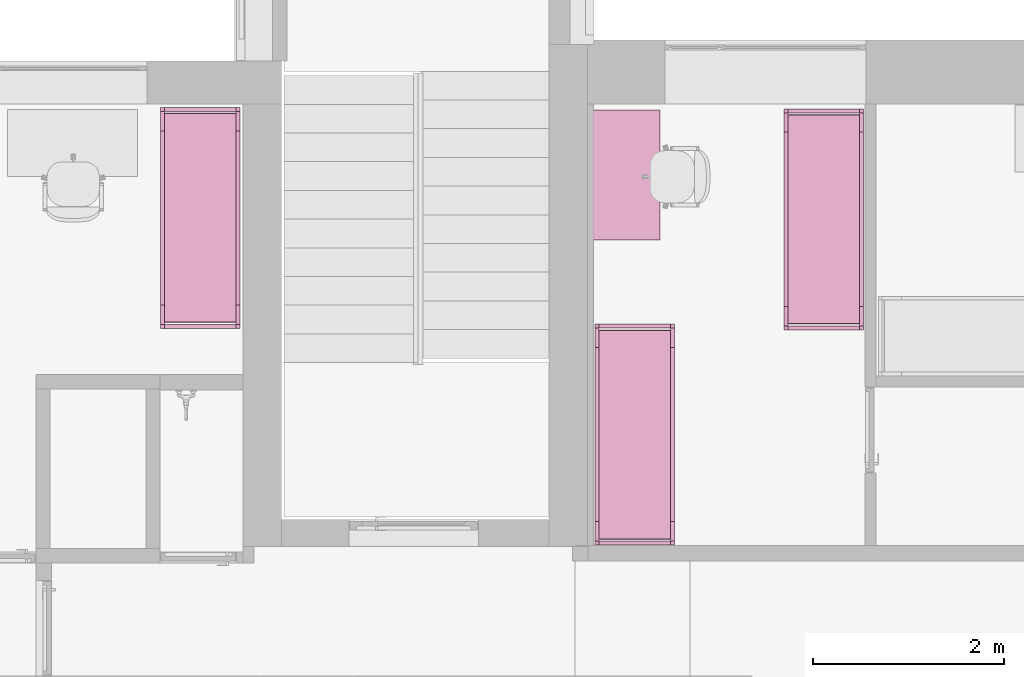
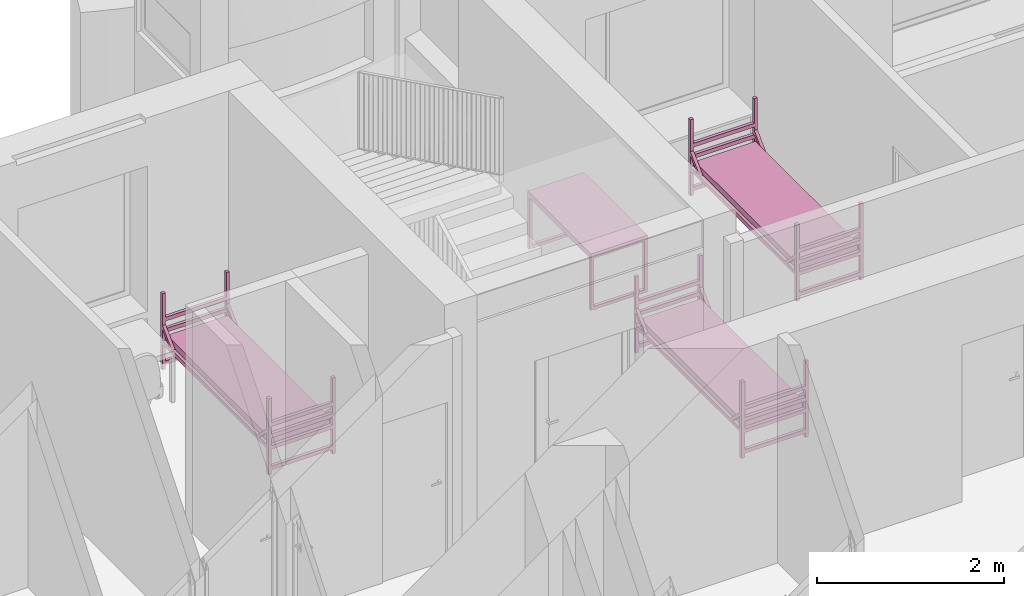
# One storey, part 33 of 46: 4 furnishings.
"""IFC2X3 building model written with IfcOpenShell, lengths in millimetres."""

from ifc_helpers import new_model, entity, si_unit, converted_unit, derived_unit, direction, frame, frame_2d, origin, place, context, subcontext, project, spatial, polyline, circle_curve, parameter, trimmed, segment, composite_curve, rectangle, outline, extrude, faceted_brep, source, transform, mapped, material, material_list, type_object, type_shapes, element, save


model = new_model("IFC2X3")

# Units and contexts
model_context = context("Model", 3, precision=0.01, world=origin(), true_north=direction((6.12303176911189e-17, 1.0)))
body_context = subcontext(model_context, "Body", "Model", "MODEL_VIEW")
ifc_project = project(units=[si_unit("LENGTHUNIT", "METRE", prefix="MILLI"), si_unit("AREAUNIT", "SQUARE_METRE"), si_unit("VOLUMEUNIT", "CUBIC_METRE"), converted_unit("PLANEANGLEUNIT", "DEGREE", entity("IfcRatioMeasure", 0.0174532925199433), si_unit("PLANEANGLEUNIT", "RADIAN"), dimensions=[0, 0, 0, 0, 0, 0, 0]), si_unit("MASSUNIT", "GRAM", prefix="KILO"), derived_unit("MASSDENSITYUNIT", [(si_unit("MASSUNIT", "GRAM", prefix="KILO"), 1), (si_unit("LENGTHUNIT", "METRE"), -3)]), si_unit("TIMEUNIT", "SECOND"), si_unit("FREQUENCYUNIT", "HERTZ"), si_unit("THERMODYNAMICTEMPERATUREUNIT", "DEGREE_CELSIUS"), derived_unit("THERMALTRANSMITTANCEUNIT", [(si_unit("MASSUNIT", "GRAM", prefix="KILO"), 1), (si_unit("THERMODYNAMICTEMPERATUREUNIT", "KELVIN"), -1), (si_unit("TIMEUNIT", "SECOND"), -3)]), derived_unit("VOLUMETRICFLOWRATEUNIT", [(si_unit("LENGTHUNIT", "METRE"), 3), (si_unit("TIMEUNIT", "SECOND"), -1)]), si_unit("ELECTRICCURRENTUNIT", "AMPERE"), si_unit("ELECTRICVOLTAGEUNIT", "VOLT"), si_unit("POWERUNIT", "WATT"), si_unit("FORCEUNIT", "NEWTON", prefix="KILO"), si_unit("ILLUMINANCEUNIT", "LUX"), si_unit("LUMINOUSFLUXUNIT", "LUMEN"), si_unit("LUMINOUSINTENSITYUNIT", "CANDELA"), derived_unit("USERDEFINED", [(si_unit("MASSUNIT", "GRAM", prefix="KILO"), -1), (si_unit("LENGTHUNIT", "METRE"), -2), (si_unit("TIMEUNIT", "SECOND"), 3), (si_unit("LUMINOUSFLUXUNIT", "LUMEN"), 1)]), derived_unit("LINEARVELOCITYUNIT", [(si_unit("LENGTHUNIT", "METRE"), 1), (si_unit("TIMEUNIT", "SECOND"), -1)]), si_unit("PRESSUREUNIT", "PASCAL"), derived_unit("USERDEFINED", [(si_unit("LENGTHUNIT", "METRE"), -2), (si_unit("MASSUNIT", "GRAM", prefix="KILO"), 1), (si_unit("TIMEUNIT", "SECOND"), -2)]), derived_unit("LINEARFORCEUNIT", [(si_unit("MASSUNIT", "GRAM", prefix="KILO"), 1), (si_unit("LENGTHUNIT", "METRE"), 1), (si_unit("TIMEUNIT", "SECOND"), -2), (si_unit("LENGTHUNIT", "METRE"), -1)]), derived_unit("PLANARFORCEUNIT", [(si_unit("MASSUNIT", "GRAM", prefix="KILO"), 1), (si_unit("LENGTHUNIT", "METRE"), 1), (si_unit("TIMEUNIT", "SECOND"), -2), (si_unit("LENGTHUNIT", "METRE"), -2)])], contexts=[model_context])

# Site, building, storey, space
site_placement = place(None, origin())
site = spatial("IfcSite", under=ifc_project, at=site_placement, Name="Default", CompositionType="ELEMENT")
building_placement = place(site_placement, origin())
building = spatial("IfcBuilding", under=site, at=building_placement, Name="SMA ARH", CompositionType="ELEMENT")
storey_placement = place(building_placement, origin())
storey = spatial("IfcBuildingStorey", under=building, at=storey_placement, Name="1 Korrus", CompositionType="ELEMENT", Elevation=0.0)
space_1_placement = place(storey_placement, origin())
space_1 = spatial("IfcSpace", under=storey, at=space_1_placement, Name="1-22", CompositionType="ELEMENT", InteriorOrExteriorSpace="INTERNAL")

# Furnishings
ifc_material_1 = material(Name="Madrats")
furniture_type_1 = type_object("IfcFurnitureType", Name="Kasarmu voodi ühekordne 2308x830:Kasarmu voodi ühekordne 2308x830", material=ifc_material_1)
shared_shape_1 = source(origin(), body_context, "Body", "SweptSolid", [
    extrude(rectangle(XDim=39.9999999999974, YDim=750.000000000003, at=frame_2d((-1.35003119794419e-13, -2.8421709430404e-14), x_axis=(1.0, 0.0))), frame((1.68638457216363, -1226.7969571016, 55.0), z_axis=(0.0, 0.0, 1.0), x_axis=(0.0, -1.0, 0.0)), (0.0, 0.0, 1.0), 49.9999999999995),
    extrude(rectangle(XDim=39.9999999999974, YDim=750.000000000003, at=frame_2d((-1.35003119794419e-13, -2.8421709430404e-14), x_axis=(1.0, 0.0))), frame((1.68638457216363, -1226.7969571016, 325.0), z_axis=(0.0, 0.0, 1.0), x_axis=(0.0, -1.0, 0.0)), (0.0, 0.0, 1.0), 49.9999999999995),
    extrude(rectangle(XDim=39.9999999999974, YDim=750.000000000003, at=frame_2d((-1.35003119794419e-13, -2.8421709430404e-14), x_axis=(1.0, 0.0))), frame((1.68638457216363, -1226.7969571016, 475.0), z_axis=(0.0, 0.0, 1.0), x_axis=(0.0, -1.0, 0.0)), (0.0, 0.0, 1.0), 49.9999999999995),
    extrude(rectangle(XDim=39.9999999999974, YDim=750.000000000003, at=frame_2d((-1.35003119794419e-13, -2.8421709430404e-14), x_axis=(1.0, 0.0))), frame((1.68638457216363, -1226.7969571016, 625.0), z_axis=(0.0, 0.0, 1.0), x_axis=(0.0, -1.0, 0.0)), (0.0, 0.0, 1.0), 50.0000000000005),
    extrude(rectangle(XDim=39.9999999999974, YDim=750.000000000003, at=frame_2d((1.35003119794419e-13, -2.8421709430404e-14), x_axis=(1.0, 0.0))), frame((1.68638457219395, 1041.2030428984, 55.0), z_axis=(0.0, 0.0, 1.0), x_axis=(0.0, -1.0, 0.0)), (0.0, 0.0, 1.0), 50.0000000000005),
    extrude(rectangle(XDim=39.9999999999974, YDim=750.000000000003, at=frame_2d((1.35003119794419e-13, -2.8421709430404e-14), x_axis=(1.0, 0.0))), frame((1.68638457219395, 1041.2030428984, 325.0), z_axis=(0.0, 0.0, 1.0), x_axis=(0.0, -1.0, 0.0)), (0.0, 0.0, 1.0), 50.0000000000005),
    extrude(rectangle(XDim=39.9999999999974, YDim=750.000000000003, at=frame_2d((1.35003119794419e-13, -2.8421709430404e-14), x_axis=(1.0, 0.0))), frame((1.68638457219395, 1041.2030428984, 475.0), z_axis=(0.0, 0.0, 1.0), x_axis=(0.0, -1.0, 0.0)), (0.0, 0.0, 1.0), 50.0000000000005),
    extrude(rectangle(XDim=39.9999999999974, YDim=750.000000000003, at=frame_2d((1.35003119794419e-13, -2.8421709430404e-14), x_axis=(1.0, 0.0))), frame((1.68638457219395, 1041.2030428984, 625.0), z_axis=(0.0, 0.0, 1.0), x_axis=(0.0, -1.0, 0.0)), (0.0, 0.0, 1.0), 49.9999999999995),
    extrude(outline(composite_curve([segment(trimmed(circle_curve(frame_2d((1085.0, -40.0), x_axis=(1.0, 0.0)), 10.0), [parameter(270.0)], [parameter(0.0)], True, "PARAMETER"), True, "CONTINUOUS"), segment(polyline([(1095.0, -40.0), (1095.0, 40.0)]), True, "CONTINUOUS"), segment(trimmed(circle_curve(frame_2d((1085.0, 40.0), x_axis=(1.0, 0.0)), 10.0), [parameter(0.0)], [parameter(90.0000000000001)], True, "PARAMETER"), True, "CONTINUOUS"), segment(polyline([(1085.0, 50.0), (-1085.0, 50.0)]), True, "CONTINUOUS"), segment(trimmed(circle_curve(frame_2d((-1085.0, 40.0), x_axis=(1.0, 0.0)), 10.0), [parameter(90.0000000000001)], [parameter(180.0)], True, "PARAMETER"), True, "CONTINUOUS"), segment(polyline([(-1095.0, 40.0), (-1095.0, -40.0)]), True, "CONTINUOUS"), segment(trimmed(circle_curve(frame_2d((-1085.0, -40.0), x_axis=(1.0, 0.0)), 10.0), [parameter(180.0)], [parameter(270.0)], True, "PARAMETER"), True, "CONTINUOUS"), segment(polyline([(-1085.0, -50.0), (1085.0, -50.0)]), True, "CONTINUOUS")], self_intersect=False)), frame((-373.313615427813, -92.7969571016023, 405.0), z_axis=(1.0, 0.0, 0.0), x_axis=(0.0, -1.0, 0.0)), (0.0, 0.0, 1.0), 750.000000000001),
    extrude(outline(polyline([(-1114.0, -100.0), (1114.0, -100.0), (1114.0, -50.0), (961.59199141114, -50.0), (1114.0, 100.0), (1114.0, 150.0), (910.789321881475, -50.0), (-910.789321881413, -50.0), (-1114.0, 150.0), (-1114.0, 100.0), (-961.591991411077, -50.0), (-1114.0, -50.0), (-1114.0, -100.0)])), frame((-413.313615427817, -92.7969571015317, 430.0), z_axis=(1.0, 0.0, 0.0), x_axis=(0.0, 1.0, 0.0)), (0.0, 0.0, 1.0), 39.9999999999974),
    extrude(outline(polyline([(-1114.0, -100.0), (1114.0, -100.0), (1114.0, -50.0), (961.591991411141, -50.0), (1114.0, 100.0), (1114.0, 150.0), (910.789321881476, -50.0), (-910.789321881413, -50.0), (-1114.0, 150.0), (-1114.0, 100.0), (-961.591991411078, -50.0), (-1114.0, -50.0), (-1114.0, -100.0)])), frame((376.686384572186, -92.796957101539, 430.0), z_axis=(1.0, 0.0, 0.0), x_axis=(0.0, 1.0, 0.0)), (0.0, 0.0, 1.0), 39.9999999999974),
    extrude(rectangle(XDim=39.9999999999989, YDim=39.9999999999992, at=frame_2d((-6.75015598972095e-14, 0.0), x_axis=(1.0, 0.0))), frame((396.686384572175, -1226.79695710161, 0.0), z_axis=(0.0, 0.0, 1.0), x_axis=(0.0, 1.0, 0.0)), (0.0, 0.0, 1.0), 995.0),
    extrude(rectangle(XDim=39.9999999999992, YDim=39.9999999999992, at=frame_2d((-1.35003119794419e-13, 0.0), x_axis=(1.0, 0.0))), frame((396.686384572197, 1041.20304289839, 0.0), z_axis=(0.0, 0.0, 1.0), x_axis=(0.0, 1.0, 0.0)), (0.0, 0.0, 1.0), 995.0),
    extrude(rectangle(XDim=40.0000000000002, YDim=39.9999999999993, at=frame_2d((-1.35003119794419e-13, 0.0), x_axis=(1.0, 0.0))), frame((-393.313615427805, 1041.2030428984, 0.0), z_axis=(0.0, 0.0, 1.0), x_axis=(0.0, 1.0, 0.0)), (0.0, 0.0, 1.0), 995.0),
    extrude(rectangle(XDim=39.9999999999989, YDim=39.9999999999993, at=frame_2d((-6.75015598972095e-14, 0.0), x_axis=(1.0, 0.0))), frame((-393.313615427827, -1226.7969571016, 0.0), z_axis=(0.0, 0.0, 1.0), x_axis=(0.0, 1.0, 0.0)), (0.0, 0.0, 1.0), 995.0),
])
type_shapes(furniture_type_1, [shared_shape_1])
for number, where, z_axis, x_axis, name in (
    (1, (14471.6863845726, 11200.0, 0.0), (0.0, 0.0, 1.0), (-1.0, 0.0, 0.0), "Kasarmu voodi ühekordne 2308x830:Kasarmu voodi ühekordne 2308x830"),
    (2, (12496.6863845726, 8950.20304289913, 0.0), (0.0, 0.0, 1.0), (-1.0, 0.0, 0.0), "Kasarmu voodi ühekordne 2308x830:Kasarmu voodi ühekordne 2308x830"),
):
    element("IfcFurnishingElement", number, at=place(space_1_placement, frame(where, z_axis=z_axis, x_axis=x_axis)), inside=space_1, type_object=furniture_type_1, material=ifc_material_1, Name=name, ObjectType="Kasarmu voodi ühekordne 2308x830:Kasarmu voodi ühekordne 2308x830", context=body_context, shape_type="MappedRepresentation", body=[
        mapped(shared_shape_1, transform((0.0, 0.0, 0.0), scale=1.0)),
    ])

# Space
space_2_placement = place(storey_placement, origin())
space_2 = spatial("IfcSpace", under=storey, at=space_2_placement, Name="1-20/2", CompositionType="ELEMENT", InteriorOrExteriorSpace="INTERNAL")

# Furnishings
furnishing_1_placement = place(space_2_placement, frame((7955.32130046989, 11215.0, 0.0), z_axis=(0.0, 0.0, 1.0), x_axis=(-1.0, 0.0, 0.0)))
element("IfcFurnishingElement", 3, at=furnishing_1_placement, inside=space_2, type_object=furniture_type_1, material=ifc_material_1, Name="Kasarmu voodi ühekordne 2308x830:Kasarmu voodi ühekordne 2308x830", ObjectType="Kasarmu voodi ühekordne 2308x830:Kasarmu voodi ühekordne 2308x830", context=body_context, shape_type="MappedRepresentation", body=[
    mapped(shared_shape_1, transform((0.0, 0.0, 0.0), scale=1.0)),
])
ifc_material_2 = material(Name="<Unnamed>")
ifc_material_list = material_list([ifc_material_2, ifc_material_2])
furniture_type_2 = type_object("IfcFurnitureType", Name="kirjutuslaud 1360x700mm:kirjutuslaud 1360x700mm", material=ifc_material_list)
shared_shape_2 = source(origin(), body_context, "Body", "Brep", [
    faceted_brep([(680.0, -350.0, 720.0), (680.0, 350.0, 720.0), (680.0, 350.0, 750.0), (680.0, -350.0, 750.0), (-680.0, -350.0, 720.0), (-680.0, -350.0, 750.0), (-680.0, 350.0, 750.0), (-680.0, 350.0, 720.0)], [[[0, 1, 2, 3]], [[4, 5, 6, 7]], [[1, 0, 4, 7]], [[2, 1, 7, 6]], [[3, 2, 6, 5]], [[0, 3, 5, 4]]]),
    faceted_brep([(-640.0, -310.0, 680.0), (-640.0, 310.0, 680.0), (-640.0, 310.0, 720.0), (-640.0, -310.0, 720.0), (-680.0, -350.0, 720.0), (-680.0, 350.0, 720.0), (-680.0, 350.0, 10.0), (-680.0, -350.0, 10.0), (-680.0, 310.0, 680.0), (-680.0, -310.0, 680.0), (-680.0, -310.0, 50.0), (-680.0, 310.0, 50.0), (-640.0, -350.0, 10.0), (-640.0, -350.0, 680.0), (640.0, -350.0, 680.0), (640.0, -350.0, 10.0), (680.0, -350.0, 10.0), (680.0, -350.0, 720.0), (-640.0, 350.0, 10.0), (680.0, 350.0, 720.0), (680.0, 350.0, 10.0), (640.0, 350.0, 10.0), (640.0, 350.0, 680.0), (-640.0, 350.0, 680.0), (640.0, 310.0, 720.0), (640.0, -310.0, 720.0), (-640.0, 310.0, 50.0), (-640.0, -310.0, 50.0), (640.0, -310.0, 680.0), (640.0, 310.0, 680.0), (680.0, 310.0, 680.0), (680.0, 310.0, 50.0), (680.0, -310.0, 50.0), (680.0, -310.0, 680.0), (640.0, -310.0, 50.0), (640.0, 310.0, 50.0)], [[[0, 1, 2, 3]], [[4, 5, 6, 7], [8, 9, 10, 11]], [[4, 7, 12, 13, 14, 15, 16, 17]], [[18, 12, 7, 6]], [[6, 5, 19, 20, 21, 22, 23, 18]], [[19, 5, 4, 17], [2, 24, 25, 3]], [[26, 1, 8, 11]], [[27, 26, 11, 10]], [[0, 27, 10, 9]], [[1, 0, 9, 8]], [[14, 13, 0, 28]], [[24, 2, 1, 29]], [[3, 25, 28, 0]], [[17, 16, 20, 19], [30, 31, 32, 33]], [[21, 15, 14, 28, 34, 35, 29, 22]], [[20, 16, 15, 21]], [[31, 30, 29, 35]], [[32, 31, 35, 34]], [[33, 32, 34, 28]], [[30, 33, 28, 29]], [[29, 28, 25, 24]], [[29, 1, 23, 22]], [[12, 18, 23, 1, 26, 27, 0, 13]]]),
    faceted_brep([(-663.729456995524, -270.466136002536, 0.0), (-659.847171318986, -269.955023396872, 0.0), (-655.964885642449, -270.466136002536, 0.0), (-652.347171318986, -271.964642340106, 0.0), (-649.240569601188, -274.348421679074, 0.0), (-646.85679026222, -277.455023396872, 0.0), (-645.35828392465, -281.072737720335, 0.0), (-644.847171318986, -284.955023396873, 0.0), (-645.35828392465, -288.83730907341, 0.0), (-646.85679026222, -292.455023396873, 0.0), (-649.240569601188, -295.561625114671, 0.0), (-652.347171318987, -297.945404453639, 0.0), (-655.964885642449, -299.443910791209, 0.0), (-659.847171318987, -299.955023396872, 0.0), (-663.729456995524, -299.443910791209, 0.0), (-667.347171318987, -297.945404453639, 0.0), (-670.453773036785, -295.561625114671, 0.0), (-672.837552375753, -292.455023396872, 0.0), (-674.336058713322, -288.83730907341, 0.0), (-674.847171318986, -284.955023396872, 0.0), (-674.336058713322, -281.072737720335, 0.0), (-672.837552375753, -277.455023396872, 0.0), (-670.453773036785, -274.348421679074, 0.0), (-667.347171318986, -271.964642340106, 0.0), (-655.964885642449, -299.443910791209, 10.0), (-652.347171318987, -297.945404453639, 10.0), (-649.240569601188, -295.561625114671, 10.0), (-646.85679026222, -292.455023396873, 10.0), (-645.35828392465, -288.83730907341, 10.0), (-644.847171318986, -284.955023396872, 10.0), (-645.35828392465, -281.072737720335, 10.0), (-646.85679026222, -277.455023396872, 10.0), (-649.240569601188, -274.348421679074, 10.0), (-652.347171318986, -271.964642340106, 10.0), (-655.964885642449, -270.466136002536, 10.0), (-659.847171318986, -269.955023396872, 10.0), (-663.729456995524, -270.466136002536, 10.0), (-667.347171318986, -271.964642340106, 10.0), (-670.453773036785, -274.348421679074, 10.0), (-672.837552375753, -277.455023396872, 10.0), (-674.336058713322, -281.072737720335, 10.0), (-674.847171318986, -284.955023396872, 10.0), (-674.336058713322, -288.83730907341, 10.0), (-672.837552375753, -292.455023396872, 10.0), (-670.453773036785, -295.561625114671, 10.0), (-667.347171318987, -297.945404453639, 10.0), (-663.729456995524, -299.443910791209, 10.0), (-659.847171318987, -299.955023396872, 10.0)], [[[0, 1, 2, 3, 4, 5, 6, 7, 8, 9, 10, 11, 12, 13, 14, 15, 16, 17, 18, 19, 20, 21, 22, 23]], [[24, 25, 26, 27, 28, 29, 30, 31, 32, 33, 34, 35, 36, 37, 38, 39, 40, 41, 42, 43, 44, 45, 46, 47]], [[18, 42, 41, 19]], [[17, 43, 42, 18]], [[45, 44, 16, 15]], [[17, 16, 44, 43]], [[46, 45, 15, 14]], [[47, 46, 14, 13]], [[12, 24, 47, 13]], [[11, 25, 24, 12]], [[27, 26, 10, 9]], [[11, 10, 26, 25]], [[28, 27, 9, 8]], [[29, 28, 8, 7]], [[6, 30, 29, 7]], [[5, 31, 30, 6]], [[33, 32, 4, 3]], [[5, 4, 32, 31]], [[34, 33, 3, 2]], [[35, 34, 2, 1]], [[0, 36, 35, 1]], [[23, 37, 36, 0]], [[39, 38, 22, 21]], [[23, 22, 38, 37]], [[40, 39, 21, 20]], [[41, 40, 20, 19]]]),
    faceted_brep([(-655.964885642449, 270.466136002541, 10.0), (-652.347171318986, 271.964642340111, 10.0), (-649.240569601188, 274.348421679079, 10.0), (-646.85679026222, 277.455023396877, 10.0), (-645.35828392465, 281.07273772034, 10.0), (-644.847171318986, 284.955023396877, 10.0), (-645.35828392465, 288.837309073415, 10.0), (-646.85679026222, 292.455023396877, 10.0), (-649.240569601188, 295.561625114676, 10.0), (-652.347171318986, 297.945404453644, 10.0), (-655.964885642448, 299.443910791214, 10.0), (-659.847171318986, 299.955023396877, 10.0), (-663.729456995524, 299.443910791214, 10.0), (-667.347171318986, 297.945404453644, 10.0), (-670.453773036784, 295.561625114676, 10.0), (-672.837552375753, 292.455023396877, 10.0), (-674.336058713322, 288.837309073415, 10.0), (-674.847171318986, 284.955023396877, 10.0), (-674.336058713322, 281.07273772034, 10.0), (-672.837552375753, 277.455023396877, 10.0), (-670.453773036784, 274.348421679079, 10.0), (-667.347171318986, 271.964642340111, 10.0), (-663.729456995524, 270.466136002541, 10.0), (-659.847171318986, 269.955023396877, 10.0), (-655.964885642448, 299.443910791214, 0.0), (-652.347171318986, 297.945404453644, 0.0), (-649.240569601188, 295.561625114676, 0.0), (-646.85679026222, 292.455023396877, 0.0), (-645.35828392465, 288.837309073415, 0.0), (-644.847171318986, 284.955023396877, 0.0), (-645.35828392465, 281.07273772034, 0.0), (-646.85679026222, 277.455023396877, 0.0), (-649.240569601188, 274.348421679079, 0.0), (-652.347171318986, 271.964642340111, 0.0), (-655.964885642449, 270.466136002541, 0.0), (-659.847171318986, 269.955023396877, 0.0), (-663.729456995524, 270.466136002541, 0.0), (-667.347171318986, 271.964642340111, 0.0), (-670.453773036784, 274.348421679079, 0.0), (-672.837552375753, 277.455023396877, 0.0), (-674.336058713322, 281.07273772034, 0.0), (-674.847171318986, 284.955023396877, 0.0), (-674.336058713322, 288.837309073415, 0.0), (-672.837552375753, 292.455023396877, 0.0), (-670.453773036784, 295.561625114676, 0.0), (-667.347171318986, 297.945404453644, 0.0), (-663.729456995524, 299.443910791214, 0.0), (-659.847171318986, 299.955023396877, 0.0)], [[[0, 1, 2, 3, 4, 5, 6, 7, 8, 9, 10, 11, 12, 13, 14, 15, 16, 17, 18, 19, 20, 21, 22, 23]], [[24, 25, 26, 27, 28, 29, 30, 31, 32, 33, 34, 35, 36, 37, 38, 39, 40, 41, 42, 43, 44, 45, 46, 47]], [[40, 18, 17, 41]], [[39, 19, 18, 40]], [[21, 20, 38, 37]], [[39, 38, 20, 19]], [[22, 21, 37, 36]], [[23, 22, 36, 35]], [[34, 0, 23, 35]], [[33, 1, 0, 34]], [[3, 2, 32, 31]], [[33, 32, 2, 1]], [[4, 3, 31, 30]], [[5, 4, 30, 29]], [[28, 6, 5, 29]], [[27, 7, 6, 28]], [[9, 8, 26, 25]], [[27, 26, 8, 7]], [[10, 9, 25, 24]], [[11, 10, 24, 47]], [[46, 12, 11, 47]], [[45, 13, 12, 46]], [[15, 14, 44, 43]], [[45, 44, 14, 13]], [[16, 15, 43, 42]], [[17, 16, 42, 41]]]),
    faceted_brep([(656.270543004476, -270.466136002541, 0.0), (660.152828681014, -269.955023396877, 0.0), (664.035114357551, -270.466136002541, 0.0), (667.652828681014, -271.96464234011, 0.0), (670.759430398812, -274.348421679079, 0.0), (673.14320973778, -277.455023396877, 0.0), (674.64171607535, -281.072737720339, 0.0), (675.152828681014, -284.955023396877, 0.0), (674.64171607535, -288.837309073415, 0.0), (673.14320973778, -292.455023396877, 0.0), (670.759430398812, -295.561625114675, 0.0), (667.652828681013, -297.945404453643, 0.0), (664.035114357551, -299.443910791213, 0.0), (660.152828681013, -299.955023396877, 0.0), (656.270543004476, -299.443910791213, 0.0), (652.652828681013, -297.945404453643, 0.0), (649.546226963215, -295.561625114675, 0.0), (647.162447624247, -292.455023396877, 0.0), (645.663941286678, -288.837309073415, 0.0), (645.152828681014, -284.955023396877, 0.0), (645.663941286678, -281.072737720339, 0.0), (647.162447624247, -277.455023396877, 0.0), (649.546226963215, -274.348421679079, 0.0), (652.652828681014, -271.96464234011, 0.0), (664.035114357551, -299.443910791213, 10.0), (667.652828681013, -297.945404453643, 10.0), (670.759430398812, -295.561625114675, 10.0), (673.14320973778, -292.455023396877, 10.0), (674.64171607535, -288.837309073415, 10.0), (675.152828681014, -284.955023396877, 10.0), (674.64171607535, -281.072737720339, 10.0), (673.14320973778, -277.455023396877, 10.0), (670.759430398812, -274.348421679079, 10.0), (667.652828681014, -271.96464234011, 10.0), (664.035114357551, -270.466136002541, 10.0), (660.152828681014, -269.955023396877, 10.0), (656.270543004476, -270.466136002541, 10.0), (652.652828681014, -271.96464234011, 10.0), (649.546226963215, -274.348421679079, 10.0), (647.162447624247, -277.455023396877, 10.0), (645.663941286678, -281.072737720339, 10.0), (645.152828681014, -284.955023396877, 10.0), (645.663941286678, -288.837309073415, 10.0), (647.162447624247, -292.455023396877, 10.0), (649.546226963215, -295.561625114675, 10.0), (652.652828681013, -297.945404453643, 10.0), (656.270543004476, -299.443910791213, 10.0), (660.152828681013, -299.955023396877, 10.0)], [[[0, 1, 2, 3, 4, 5, 6, 7, 8, 9, 10, 11, 12, 13, 14, 15, 16, 17, 18, 19, 20, 21, 22, 23]], [[24, 25, 26, 27, 28, 29, 30, 31, 32, 33, 34, 35, 36, 37, 38, 39, 40, 41, 42, 43, 44, 45, 46, 47]], [[18, 42, 41, 19]], [[17, 43, 42, 18]], [[45, 44, 16, 15]], [[17, 16, 44, 43]], [[46, 45, 15, 14]], [[47, 46, 14, 13]], [[12, 24, 47, 13]], [[11, 25, 24, 12]], [[27, 26, 10, 9]], [[11, 10, 26, 25]], [[28, 27, 9, 8]], [[29, 28, 8, 7]], [[6, 30, 29, 7]], [[5, 31, 30, 6]], [[33, 32, 4, 3]], [[5, 4, 32, 31]], [[34, 33, 3, 2]], [[35, 34, 2, 1]], [[0, 36, 35, 1]], [[23, 37, 36, 0]], [[39, 38, 22, 21]], [[23, 22, 38, 37]], [[40, 39, 21, 20]], [[41, 40, 20, 19]]]),
    faceted_brep([(664.035114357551, 270.466136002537, 10.0), (667.652828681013, 271.964642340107, 10.0), (670.759430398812, 274.348421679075, 10.0), (673.14320973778, 277.455023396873, 10.0), (674.64171607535, 281.072737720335, 10.0), (675.152828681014, 284.955023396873, 10.0), (674.64171607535, 288.837309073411, 10.0), (673.14320973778, 292.455023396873, 10.0), (670.759430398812, 295.561625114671, 10.0), (667.652828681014, 297.94540445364, 10.0), (664.035114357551, 299.443910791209, 10.0), (660.152828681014, 299.955023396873, 10.0), (656.270543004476, 299.443910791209, 10.0), (652.652828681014, 297.94540445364, 10.0), (649.546226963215, 295.561625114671, 10.0), (647.162447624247, 292.455023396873, 10.0), (645.663941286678, 288.837309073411, 10.0), (645.152828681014, 284.955023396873, 10.0), (645.663941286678, 281.072737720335, 10.0), (647.162447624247, 277.455023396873, 10.0), (649.546226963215, 274.348421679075, 10.0), (652.652828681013, 271.964642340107, 10.0), (656.270543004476, 270.466136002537, 10.0), (660.152828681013, 269.955023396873, 10.0), (664.035114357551, 299.443910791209, 0.0), (667.652828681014, 297.94540445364, 0.0), (670.759430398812, 295.561625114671, 0.0), (673.14320973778, 292.455023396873, 0.0), (674.64171607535, 288.837309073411, 0.0), (675.152828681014, 284.955023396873, 0.0), (674.64171607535, 281.072737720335, 0.0), (673.14320973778, 277.455023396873, 0.0), (670.759430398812, 274.348421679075, 0.0), (667.652828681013, 271.964642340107, 0.0), (664.035114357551, 270.466136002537, 0.0), (660.152828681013, 269.955023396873, 0.0), (656.270543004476, 270.466136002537, 0.0), (652.652828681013, 271.964642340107, 0.0), (649.546226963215, 274.348421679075, 0.0), (647.162447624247, 277.455023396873, 0.0), (645.663941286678, 281.072737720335, 0.0), (645.152828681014, 284.955023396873, 0.0), (645.663941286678, 288.837309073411, 0.0), (647.162447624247, 292.455023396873, 0.0), (649.546226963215, 295.561625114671, 0.0), (652.652828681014, 297.94540445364, 0.0), (656.270543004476, 299.443910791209, 0.0), (660.152828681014, 299.955023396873, 0.0)], [[[0, 1, 2, 3, 4, 5, 6, 7, 8, 9, 10, 11, 12, 13, 14, 15, 16, 17, 18, 19, 20, 21, 22, 23]], [[24, 25, 26, 27, 28, 29, 30, 31, 32, 33, 34, 35, 36, 37, 38, 39, 40, 41, 42, 43, 44, 45, 46, 47]], [[40, 18, 17, 41]], [[39, 19, 18, 40]], [[21, 20, 38, 37]], [[39, 38, 20, 19]], [[22, 21, 37, 36]], [[23, 22, 36, 35]], [[34, 0, 23, 35]], [[33, 1, 0, 34]], [[3, 2, 32, 31]], [[33, 32, 2, 1]], [[4, 3, 31, 30]], [[5, 4, 30, 29]], [[28, 6, 5, 29]], [[27, 7, 6, 28]], [[9, 8, 26, 25]], [[27, 26, 8, 7]], [[10, 9, 25, 24]], [[11, 10, 24, 47]], [[46, 12, 11, 47]], [[45, 13, 12, 46]], [[15, 14, 44, 43]], [[45, 44, 14, 13]], [[16, 15, 43, 42]], [[17, 16, 42, 41]]]),
])
type_shapes(furniture_type_2, [shared_shape_2])
furnishing_2_placement = place(space_1_placement, frame((12408.0863828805, 11755.1481702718, 0.0), z_axis=(0.0, 0.0, 1.0), x_axis=(0.0, 1.0, 0.0)))
element("IfcFurnishingElement", 4, at=furnishing_2_placement, inside=space_1, type_object=furniture_type_2, Name="kirjutuslaud 1360x700mm:kirjutuslaud 1360x700mm", ObjectType="kirjutuslaud 1360x700mm:kirjutuslaud 1360x700mm", context=body_context, shape_type="MappedRepresentation", body=[
    mapped(shared_shape_2, transform((0.0, 0.0, 0.0), scale=1.0)),
])

save(model, "model.ifc")
